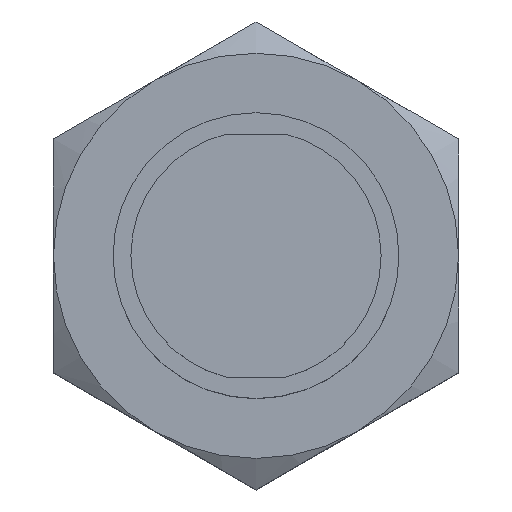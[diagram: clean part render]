
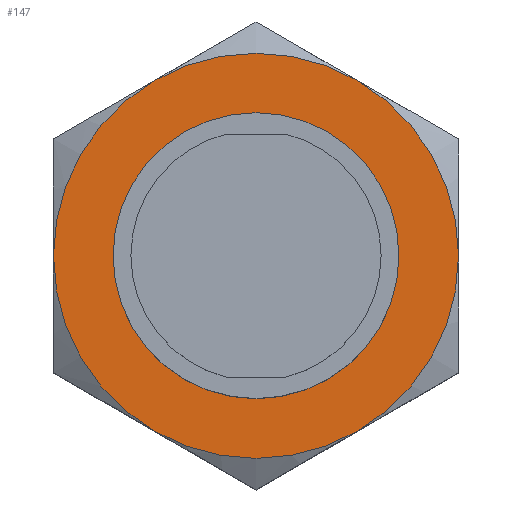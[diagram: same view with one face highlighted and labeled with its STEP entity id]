
A CAD part, top view. The second image highlights one B-rep face of the part: STEP entity #147.
In plain terms, the highlighted planar face has unit normal (0, 0, 1).
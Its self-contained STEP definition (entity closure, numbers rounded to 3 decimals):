
#8 = CARTESIAN_POINT ( 'NONE',  ( 0., 0., 2. ) ) ;
#9 = DIRECTION ( 'NONE',  ( 0., 0., 1. ) ) ;
#10 = DIRECTION ( 'NONE',  ( 1., 0., 0. ) ) ;
#16 = CARTESIAN_POINT ( 'NONE',  ( 0., 0., 2. ) ) ;
#17 = DIRECTION ( 'NONE',  ( 0., 0., 1. ) ) ;
#18 = DIRECTION ( 'NONE',  ( 1., 0., 0. ) ) ;
#133 = EDGE_CURVE ( 'NONE', #246, #270, #1659, .T. ) ;
#136 = EDGE_CURVE ( 'NONE', #338, #337, #1665, .T. ) ;
#147 = ADVANCED_FACE ( 'NONE', ( #371, #372 ), #1154, .T. ) ;
#163 = EDGE_CURVE ( 'NONE', #339, #338, #1063, .T. ) ;
#164 = EDGE_CURVE ( 'NONE', #337, #249, #1061, .T. ) ;
#165 = EDGE_CURVE ( 'NONE', #249, #248, #1064, .T. ) ;
#166 = EDGE_CURVE ( 'NONE', #248, #247, #1065, .T. ) ;
#167 = EDGE_CURVE ( 'NONE', #247, #339, #1067, .T. ) ;
#234 = ORIENTED_EDGE ( 'NONE', *, *, #133, .F. ) ;
#235 = ORIENTED_EDGE ( 'NONE', *, *, #1190, .F. ) ;
#246 = VERTEX_POINT ( 'NONE', #1895 ) ;
#247 = VERTEX_POINT ( 'NONE', #1896 ) ;
#248 = VERTEX_POINT ( 'NONE', #1897 ) ;
#249 = VERTEX_POINT ( 'NONE', #1898 ) ;
#270 = VERTEX_POINT ( 'NONE', #706 ) ;
#271 = ORIENTED_EDGE ( 'NONE', *, *, #163, .T. ) ;
#272 = ORIENTED_EDGE ( 'NONE', *, *, #164, .T. ) ;
#273 = ORIENTED_EDGE ( 'NONE', *, *, #136, .T. ) ;
#274 = ORIENTED_EDGE ( 'NONE', *, *, #165, .T. ) ;
#275 = ORIENTED_EDGE ( 'NONE', *, *, #166, .T. ) ;
#276 = ORIENTED_EDGE ( 'NONE', *, *, #167, .T. ) ;
#337 = VERTEX_POINT ( 'NONE', #707 ) ;
#338 = VERTEX_POINT ( 'NONE', #708 ) ;
#339 = VERTEX_POINT ( 'NONE', #709 ) ;
#371 = FACE_BOUND ( 'NONE', #1730, .T. ) ;
#372 = FACE_OUTER_BOUND ( 'NONE', #1729, .T. ) ;
#706 = CARTESIAN_POINT ( 'NONE',  ( 6., 0., 2. ) ) ;
#707 = CARTESIAN_POINT ( 'NONE',  ( 4.25, 7.361, 2. ) ) ;
#708 = CARTESIAN_POINT ( 'NONE',  ( 8.5, 0., 2. ) ) ;
#709 = CARTESIAN_POINT ( 'NONE',  ( 4.25, -7.361, 2. ) ) ;
#1061 = CIRCLE ( 'NONE', #1068, 8.5 ) ;
#1063 = CIRCLE ( 'NONE', #1066, 8.5 ) ;
#1064 = CIRCLE ( 'NONE', #1070, 8.5 ) ;
#1065 = CIRCLE ( 'NONE', #1071, 8.5 ) ;
#1066 = AXIS2_PLACEMENT_3D ( 'NONE', #1260, #1261, #1262 ) ;
#1067 = CIRCLE ( 'NONE', #1072, 8.5 ) ;
#1068 = AXIS2_PLACEMENT_3D ( 'NONE', #1263, #1264, #1265 ) ;
#1070 = AXIS2_PLACEMENT_3D ( 'NONE', #1266, #1267, #1268 ) ;
#1071 = AXIS2_PLACEMENT_3D ( 'NONE', #1269, #1270, #1271 ) ;
#1072 = AXIS2_PLACEMENT_3D ( 'NONE', #1272, #1273, #1274 ) ;
#1154 = PLANE ( 'NONE',  #1681 ) ;
#1155 = CARTESIAN_POINT ( 'NONE',  ( 0., 9.815, 2. ) ) ;
#1156 = DIRECTION ( 'NONE',  ( 0., 0., 1. ) ) ;
#1157 = DIRECTION ( 'NONE',  ( 1., 0., 0. ) ) ;
#1190 = EDGE_CURVE ( 'NONE', #270, #246, #1220, .T. ) ;
#1220 = CIRCLE ( 'NONE', #1222, 6. ) ;
#1222 = AXIS2_PLACEMENT_3D ( 'NONE', #1402, #1403, #1404 ) ;
#1260 = CARTESIAN_POINT ( 'NONE',  ( 0., 0., 2. ) ) ;
#1261 = DIRECTION ( 'NONE',  ( 0., 0., 1. ) ) ;
#1262 = DIRECTION ( 'NONE',  ( 1., 0., 0. ) ) ;
#1263 = CARTESIAN_POINT ( 'NONE',  ( 0., 0., 2. ) ) ;
#1264 = DIRECTION ( 'NONE',  ( 0., 0., 1. ) ) ;
#1265 = DIRECTION ( 'NONE',  ( 1., 0., 0. ) ) ;
#1266 = CARTESIAN_POINT ( 'NONE',  ( 0., 0., 2. ) ) ;
#1267 = DIRECTION ( 'NONE',  ( 0., 0., 1. ) ) ;
#1268 = DIRECTION ( 'NONE',  ( 1., 0., 0. ) ) ;
#1269 = CARTESIAN_POINT ( 'NONE',  ( 0., 0., 2. ) ) ;
#1270 = DIRECTION ( 'NONE',  ( 0., 0., 1. ) ) ;
#1271 = DIRECTION ( 'NONE',  ( 1., 0., 0. ) ) ;
#1272 = CARTESIAN_POINT ( 'NONE',  ( 0., 0., 2. ) ) ;
#1273 = DIRECTION ( 'NONE',  ( 0., 0., 1. ) ) ;
#1274 = DIRECTION ( 'NONE',  ( 1., 0., 0. ) ) ;
#1402 = CARTESIAN_POINT ( 'NONE',  ( 0., 0., 2. ) ) ;
#1403 = DIRECTION ( 'NONE',  ( 0., 0., 1. ) ) ;
#1404 = DIRECTION ( 'NONE',  ( 1., 0., 0. ) ) ;
#1659 = CIRCLE ( 'NONE', #1661, 6. ) ;
#1661 = AXIS2_PLACEMENT_3D ( 'NONE', #8, #9, #10 ) ;
#1665 = CIRCLE ( 'NONE', #1667, 8.5 ) ;
#1667 = AXIS2_PLACEMENT_3D ( 'NONE', #16, #17, #18 ) ;
#1681 = AXIS2_PLACEMENT_3D ( 'NONE', #1155, #1156, #1157 ) ;
#1729 = EDGE_LOOP ( 'NONE', ( #271, #273, #272, #274, #275, #276 ) ) ;
#1730 = EDGE_LOOP ( 'NONE', ( #234, #235 ) ) ;
#1895 = CARTESIAN_POINT ( 'NONE',  ( -6., 0., 2. ) ) ;
#1896 = CARTESIAN_POINT ( 'NONE',  ( -4.25, -7.361, 2. ) ) ;
#1897 = CARTESIAN_POINT ( 'NONE',  ( -8.5, 0., 2. ) ) ;
#1898 = CARTESIAN_POINT ( 'NONE',  ( -4.25, 7.361, 2. ) ) ;
